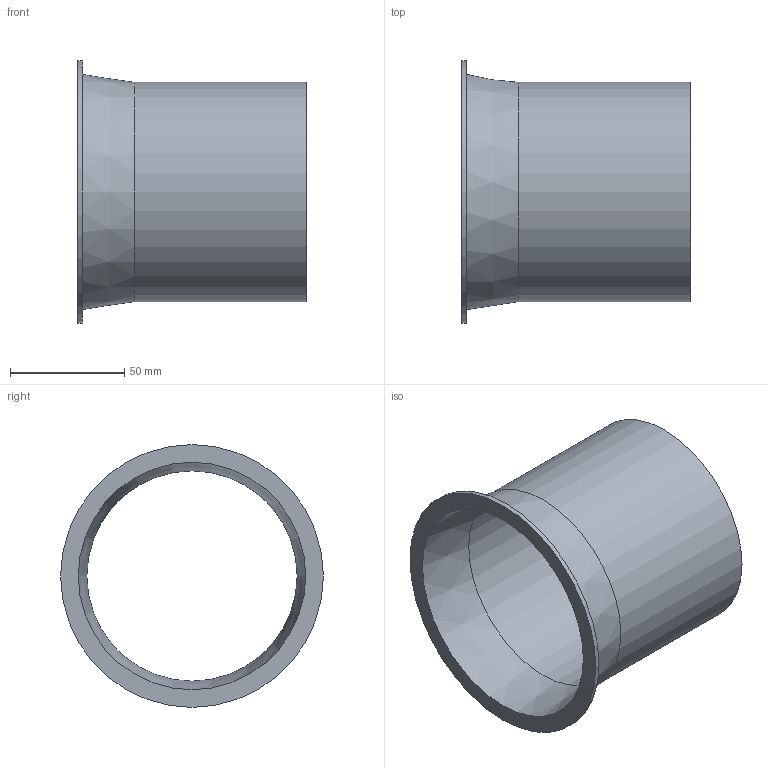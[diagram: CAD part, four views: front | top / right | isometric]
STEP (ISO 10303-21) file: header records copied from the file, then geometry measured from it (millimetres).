
FILE_DESCRIPTION((''),'2;1');
FILE_NAME('U:\Wolfgang\Marcel-3D\fertig\Kapitel 1\1011009.stp','2010-05-31T11:04:41',('TK2'),(''),'Autodesk Inventor 2010','Autodesk Inventor 2010','');
FILE_SCHEMA(('AUTOMOTIVE_DESIGN { 1 0 10303 214 1 1 1 1 }'));
Length unit declared in the file: millimetre
Products named in the file (1): 1011009
Bounding box: 100 x 115 x 115 mm (x, y, z)
Volume: 63842.8 mm3; surface area: 65144.9 mm2
Topology: 1 solids, 1 shells, 8 faces, 14 edges, 9 vertices
Faces by surface type: cylinder 3, plane 3, cone 2
Full cylindrical faces by diameter (mm): 92 x1, 96 x1, 115 x1
Entity records: 194 total; most frequent: DIRECTION 34, CARTESIAN_POINT 25, AXIS2_PLACEMENT_3D 17, ORIENTED_EDGE 16, EDGE_LOOP 16, VERTEX_POINT 8, CIRCLE 8, EDGE_CURVE 8
